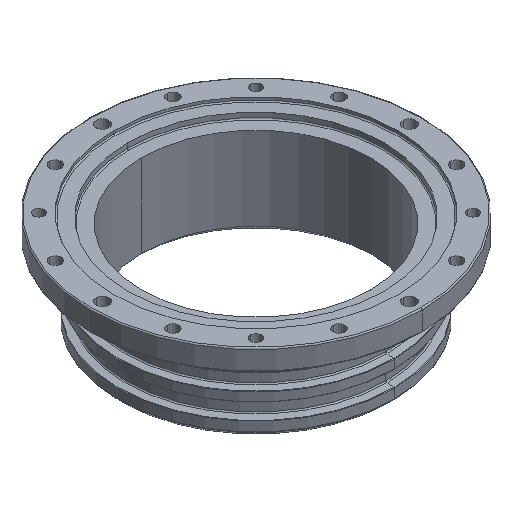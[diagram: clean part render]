
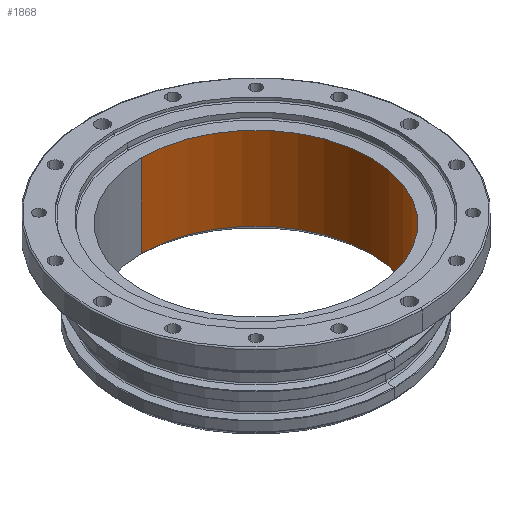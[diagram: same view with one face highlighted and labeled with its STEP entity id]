
A CAD part, isometric view. The second image highlights one B-rep face of the part: STEP entity #1868.
In plain terms, the highlighted cylindrical face has radius 38.1 mm (diameter 76.2 mm), a partial arc.
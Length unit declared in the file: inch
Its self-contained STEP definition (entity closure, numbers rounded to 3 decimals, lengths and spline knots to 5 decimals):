
#28 = VECTOR ( 'NONE', #2967, 39.37008 ) ;
#30 = CARTESIAN_POINT ( 'NONE',  ( 0., -1.5, 8.15 ) ) ;
#42 = CARTESIAN_POINT ( 'NONE',  ( 0., 0., -1.37637 ) ) ;
#120 = CARTESIAN_POINT ( 'NONE',  ( 0., 1.5, 8.15 ) ) ;
#346 = VERTEX_POINT ( 'NONE', #30 ) ;
#368 = VERTEX_POINT ( 'NONE', #1179 ) ;
#427 = CARTESIAN_POINT ( 'NONE',  ( 0., 0., 8.15 ) ) ;
#436 = VERTEX_POINT ( 'NONE', #120 ) ;
#444 = EDGE_CURVE ( 'NONE', #1571, #368, #1081, .T. ) ;
#903 = ORIENTED_EDGE ( 'NONE', *, *, #444, .T. ) ;
#1038 = EDGE_CURVE ( 'NONE', #436, #346, #3460, .T. ) ;
#1041 = ORIENTED_EDGE ( 'NONE', *, *, #3359, .T. ) ;
#1081 = CIRCLE ( 'NONE', #2520, 1.5 ) ;
#1172 = DIRECTION ( 'NONE',  ( 0., 1., 0. ) ) ;
#1179 = CARTESIAN_POINT ( 'NONE',  ( 0., -1.5, 7.0625 ) ) ;
#1231 = DIRECTION ( 'NONE',  ( 0., 1., 0. ) ) ;
#1347 = EDGE_LOOP ( 'NONE', ( #1704, #1408, #1041, #903 ) ) ;
#1364 = VECTOR ( 'NONE', #2866, 39.37008 ) ;
#1408 = ORIENTED_EDGE ( 'NONE', *, *, #1038, .F. ) ;
#1428 = CARTESIAN_POINT ( 'NONE',  ( 0., 0., 7.0625 ) ) ;
#1444 = FACE_OUTER_BOUND ( 'NONE', #1347, .T. ) ;
#1506 = DIRECTION ( 'NONE',  ( 0., 0., -1. ) ) ;
#1571 = VERTEX_POINT ( 'NONE', #3144 ) ;
#1704 = ORIENTED_EDGE ( 'NONE', *, *, #1761, .F. ) ;
#1761 = EDGE_CURVE ( 'NONE', #346, #368, #2984, .T. ) ;
#1868 = ADVANCED_FACE ( 'NONE', ( #1444 ), #3006, .F. ) ;
#2026 = AXIS2_PLACEMENT_3D ( 'NONE', #42, #2200, #1172 ) ;
#2125 = CARTESIAN_POINT ( 'NONE',  ( 0., -1.5, -1.37637 ) ) ;
#2200 = DIRECTION ( 'NONE',  ( 0., 0., -1. ) ) ;
#2293 = AXIS2_PLACEMENT_3D ( 'NONE', #427, #1506, #1231 ) ;
#2316 = LINE ( 'NONE', #3161, #1364 ) ;
#2520 = AXIS2_PLACEMENT_3D ( 'NONE', #1428, #3134, #2555 ) ;
#2555 = DIRECTION ( 'NONE',  ( 0., 1., 0. ) ) ;
#2866 = DIRECTION ( 'NONE',  ( 0., 0., -1. ) ) ;
#2967 = DIRECTION ( 'NONE',  ( 0., 0., -1. ) ) ;
#2984 = LINE ( 'NONE', #2125, #28 ) ;
#3006 = CYLINDRICAL_SURFACE ( 'NONE', #2026, 1.5 ) ;
#3134 = DIRECTION ( 'NONE',  ( 0., 0., -1. ) ) ;
#3144 = CARTESIAN_POINT ( 'NONE',  ( 0., 1.5, 7.0625 ) ) ;
#3161 = CARTESIAN_POINT ( 'NONE',  ( 0., 1.5, -1.37637 ) ) ;
#3359 = EDGE_CURVE ( 'NONE', #436, #1571, #2316, .T. ) ;
#3460 = CIRCLE ( 'NONE', #2293, 1.5 ) ;
